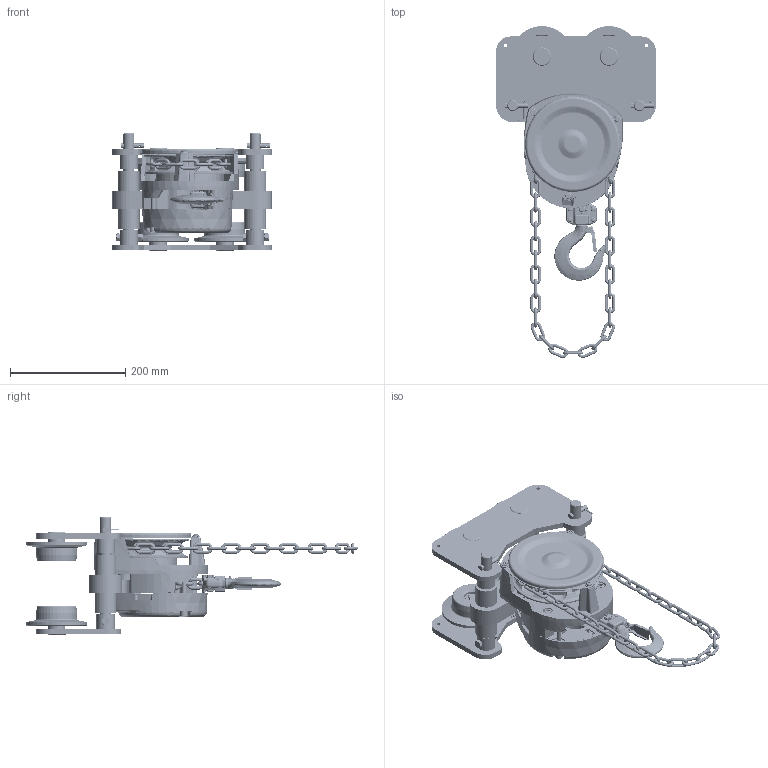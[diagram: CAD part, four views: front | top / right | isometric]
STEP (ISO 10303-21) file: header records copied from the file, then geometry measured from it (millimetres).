
FILE_DESCRIPTION (( 'STEP AP214' ), '1' );
FILE_NAME ('NTH010.STEP', '2026-08-12T18:52:14', ( '' ), ( '' ), 'SwSTEP 2.0', 'SolidWorks 2026', '' );
FILE_SCHEMA (( 'AUTOMOTIVE_DESIGN' ));
Length unit declared in the file: inch
Products named in the file (46): C1FA015-91561; M3021A010; 9047115_9047115; C1FA010-91021; CF071010; 9091282_9091282; LCCF010 (4 LINKS); C3BA010-90312; 50602-XX_50602-01; LCCF010; 50605-XX_STANDARD FLANGE; M3041010; C1FA010-91013_Simple; HCCF005 FOR CF010; 80347; HCCF005; 9098506_9098506; 9093102_9093102; M2049010; 50604; C1FA010-91052; 50602-XX_50602-02; 50601_STANDARD FLANGE; T3GA010-11021; 50600_STANDARD FLANGE; CF010_FOR NTH; C2FA010-91711; 9091284_9091284; C3BA010-90011; CF187005; C4FA010-91151; 50608; 50599; 9009417-5_9009417-5; 50389; T3P156010; T3GA010-91021; 9005212_9005212; 9091272_9091272; J1GR020-06302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
Assembly tree (161 placements, depth 4):
  NTH010
    50600_STANDARD FLANGE
      50608
      50602-XX_50602-02  x2
      50389  x2
    50601_STANDARD FLANGE
      50599
      50602-XX_50602-01  x2
      50389  x2
    50604
    50605-XX_STANDARD FLANGE  x2
    CF010_FOR NTH
      C1FA010-91021
      C1FA010-91013_Simple
      C1FA010-91052
      C4FA010-91151
      C2FA010-91711
      9098506_9098506  x5
      9091284_9091284  x2
      9091272_9091272
      CF164010
      M3021A010
        C3BA010-90312  x2
        C3BA010-90011
        CF071010
      M3041010
      M2049010
      split pin (metric) as_9009411
      LCCF010 (4 LINKS)
        LCCF010  x8
      9012711_9012711  x3
      CF187005  x3
      C1FA015-91561
      9091282_9091282  x2
      80347
      HCCF005 FOR CF010
        HCCF005  x40
    T3GA010-11021  x4
      T3GA010-91021
      J1GR020-06302
      9047238_B27.7M - 3BM1-42
    9047115_9047115  x4
    MS104010  x4
    9093102_9093102  x2
    9098506_9098506  x2
    T3P156010  x2
    9009417-5_9009417-5  x2
    9005212_9005212  x40
Bounding box: 276.23 x 575.09 x 204.8 mm (x, y, z)
Volume: 3224307.3 mm3; surface area: 1072861.9 mm2
Topology: 161 solids, 161 shells, 5958 faces, 15508 edges, 9995 vertices
Faces by surface type: plane 1725, cylinder 1300, torus 1157, cone 1008, bspline 756, sphere 12
Entity records: 237389 total; most frequent: CARTESIAN_POINT 107523, ORIENTED_EDGE 23930, DIRECTION 20684, EDGE_CURVE 11965, VERTEX_POINT 7979, AXIS2_PLACEMENT_3D 7952, EDGE_LOOP 4844, VECTOR 4780
